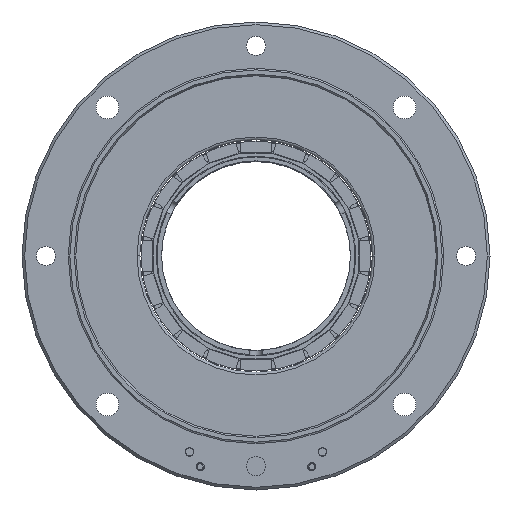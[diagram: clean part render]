
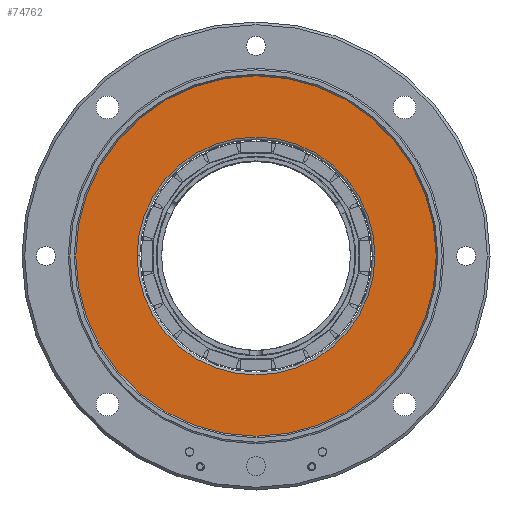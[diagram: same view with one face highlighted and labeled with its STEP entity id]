
A CAD part, left-side view. The second image highlights one B-rep face of the part: STEP entity #74762.
In plain terms, the highlighted planar face has unit normal (-1, 0, 0).
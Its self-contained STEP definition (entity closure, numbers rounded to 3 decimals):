
#24877=CARTESIAN_POINT('',(-1.1,0.,0.));
#24878=DIRECTION('',(-1.,0.,0.));
#24879=DIRECTION('',(0.,1.,0.));
#24880=AXIS2_PLACEMENT_3D('',#24877,#24878,#24879);
#24885=CARTESIAN_POINT('',(-1.1,0.,0.));
#24886=DIRECTION('',(1.,0.,0.));
#24887=DIRECTION('',(0.,1.,0.));
#24888=AXIS2_PLACEMENT_3D('',#24885,#24886,#24887);
#24893=CARTESIAN_POINT('',(-1.1,0.,0.));
#24894=DIRECTION('',(-1.,0.,0.));
#24895=DIRECTION('',(0.,-1.,0.));
#24896=AXIS2_PLACEMENT_3D('',#24893,#24894,#24895);
#24901=CARTESIAN_POINT('',(-1.1,0.,0.));
#24902=DIRECTION('',(-1.,0.,0.));
#24903=DIRECTION('',(0.,1.,0.));
#24904=AXIS2_PLACEMENT_3D('',#24901,#24902,#24903);
#61786=CARTESIAN_POINT('',(-1.1,-22.37,0.));
#61787=CARTESIAN_POINT('',(-1.1,22.37,0.));
#61788=VERTEX_POINT('',#61786);
#61789=VERTEX_POINT('',#61787);
#61791=CARTESIAN_POINT('',(-1.1,33.885,0.));
#61793=VERTEX_POINT('',#61791);
#61795=CARTESIAN_POINT('',(-1.1,-33.885,0.));
#61797=VERTEX_POINT('',#61795);
#74747=CARTESIAN_POINT('',(-1.1,0.,0.));
#74748=DIRECTION('',(1.,0.,0.));
#74749=DIRECTION('',(0.,-1.,0.));
#74750=AXIS2_PLACEMENT_3D('',#74747,#74748,#74749);
#74751=PLANE('',#74750);
#74752=ORIENTED_EDGE('',*,*,#74740,.F.);
#74753=ORIENTED_EDGE('',*,*,#74729,.T.);
#74754=EDGE_LOOP('',(#74752,#74753));
#74755=FACE_OUTER_BOUND('',#74754,.F.);
#74757=ORIENTED_EDGE('',*,*,#74756,.T.);
#74759=ORIENTED_EDGE('',*,*,#74758,.T.);
#74760=EDGE_LOOP('',(#74757,#74759));
#74761=FACE_BOUND('',#74760,.F.);
#74762=ADVANCED_FACE('',(#74755,#74761),#74751,.F.);
#24881=CIRCLE('',#24880,33.885);
#24889=CIRCLE('',#24888,33.885);
#24897=CIRCLE('',#24896,22.37);
#24905=CIRCLE('',#24904,22.37);
#74729=EDGE_CURVE('',#61793,#61797,#24889,.T.);
#74740=EDGE_CURVE('',#61793,#61797,#24881,.T.);
#74756=EDGE_CURVE('',#61788,#61789,#24897,.T.);
#74758=EDGE_CURVE('',#61789,#61788,#24905,.T.);
